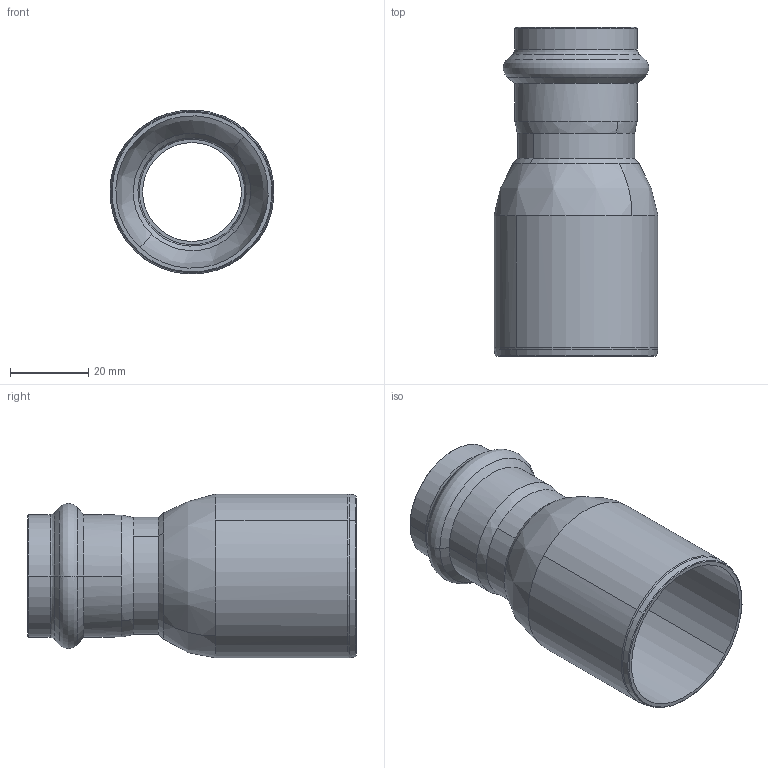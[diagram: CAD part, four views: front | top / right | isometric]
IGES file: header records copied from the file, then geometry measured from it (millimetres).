
Start section: Elysium IGES Interface
Global section: file name: C:\3d modellen sudo\C-Pr VP\SP8243V\8243VW4228.igs; native system: CoCreate Modeling 17.00A  17-Jun-2010; preprocessor: CoCreate IGES_3D V2.2; author: Unknown; organization: Unknown; date: 20130305.093923; units: millimetre
Bounding box: 41.95 x 84.19 x 41.95 mm (x, y, z)
Volume: 16086.5 mm3; surface area: 19919.5 mm2
Topology: 1 solids, 1 shells, 60 faces, 148 edges, 92 vertices
Faces by surface type: bspline 60
